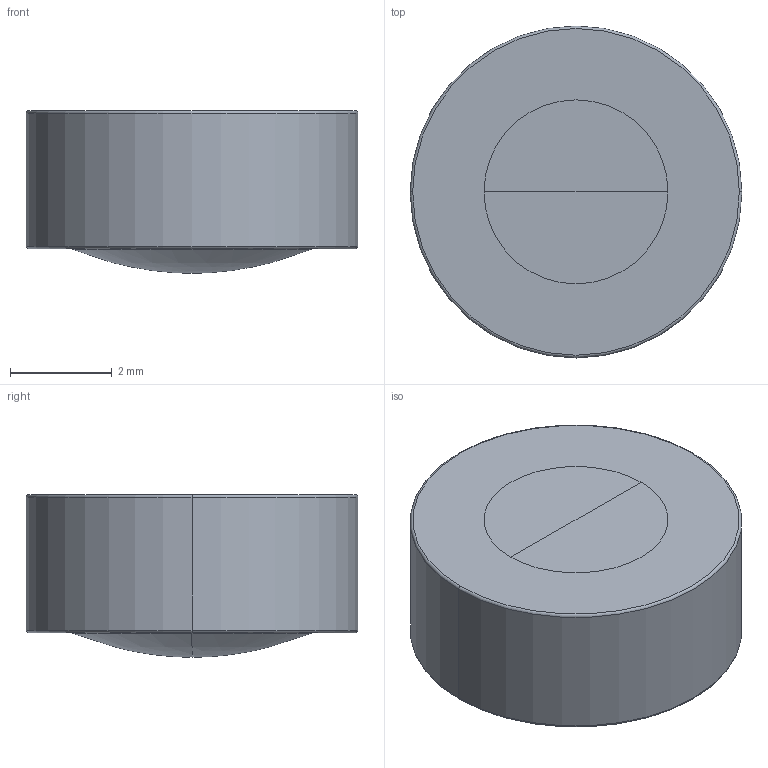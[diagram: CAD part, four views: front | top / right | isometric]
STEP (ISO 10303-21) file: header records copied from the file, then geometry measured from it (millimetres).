
FILE_DESCRIPTION((''),'2;1');
FILE_NAME('355375','2025-07-26T21:54:42',('admin'),('LIGHTPATH'),'CREO PARAMETRIC BY PTC INC, 2024063','CREO PARAMETRIC BY PTC INC, 2024063','');
FILE_SCHEMA(('CONFIG_CONTROL_DESIGN'));
Length unit declared in the file: millimetre
Products named in the file (1): 355375
Bounding box: 6.51 x 6.51 x 3.19 mm (x, y, z)
Volume: 94.3 mm3; surface area: 121.8 mm2
Topology: 1 solids, 1 shells, 14 faces, 30 edges, 16 vertices
Faces by surface type: torus 6, revolution 4, plane 2, cylinder 2
Entity records: 669 total; most frequent: CARTESIAN_POINT 333, DIRECTION 68, ORIENTED_EDGE 52, AXIS2_PLACEMENT_3D 30, EDGE_CURVE 26, CIRCLE 20, VERTEX_POINT 16, EDGE_LOOP 16
